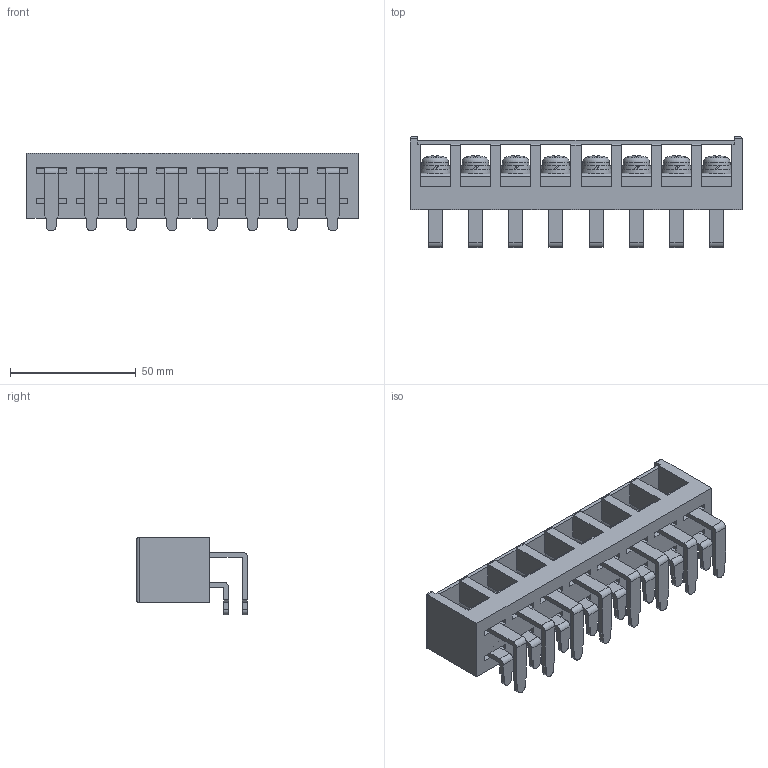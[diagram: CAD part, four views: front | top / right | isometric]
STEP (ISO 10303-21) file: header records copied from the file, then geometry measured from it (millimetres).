
FILE_DESCRIPTION(/* description */ ('Alibre Inc.'),/* implementation_level */ '2;1');
FILE_NAME(/* name */ 'export-DCA40B87-666C-4AF7-9FF3-6FFC01E7860D',/* time_stamp */ '2025-01-30T14:25:31+09:00',/* author */ (''),/* organization */ (''),/* preprocessor_version */ 'ST-DEVELOPER v17',/* originating_system */ 'Alibre',/* authorisation */ '');
FILE_SCHEMA (('CONFIG_CONTROL_DESIGN'));
Length unit declared in the file: millimetre
Bounding box: 132 x 44.1 x 31 mm (x, y, z)
Volume: 66965.5 mm3; surface area: 39071.1 mm2
Topology: 1 solids, 2 shells, 1088 faces, 3078 edges, 2009 vertices
Faces by surface type: plane 757, bspline 150, cylinder 132, cone 33, torus 8, sphere 8
Full cylindrical faces by diameter (mm): 6 x1, 10.5 x8, 12.5 x7
Entity records: 32752 total; most frequent: CARTESIAN_POINT 7334, ORIENTED_EDGE 6076, DIRECTION 3853, EDGE_CURVE 3038, VERTEX_POINT 1994, VECTOR 1973, LINE 1973, AXIS2_PLACEMENT_3D 1247
